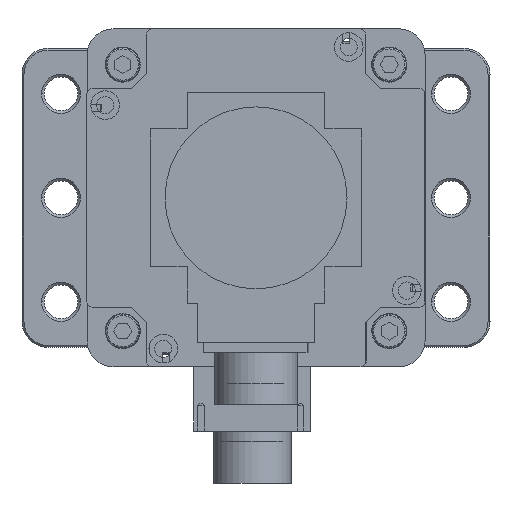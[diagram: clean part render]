
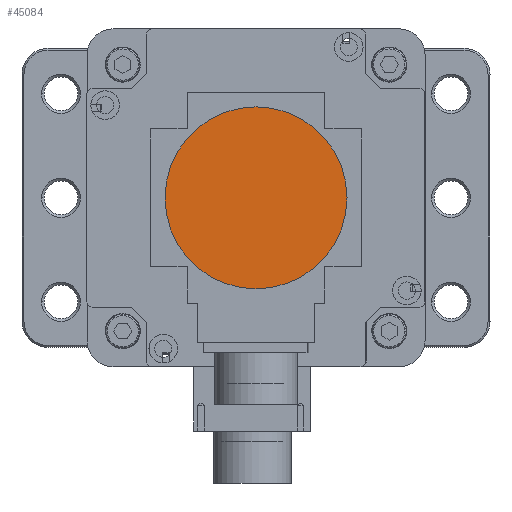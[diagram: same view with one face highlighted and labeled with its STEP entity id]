
A CAD part, front view. The second image highlights one B-rep face of the part: STEP entity #45084.
In plain terms, the highlighted planar face has unit normal (0, -1, 0) as drawn and (0, 0, 1) by its records, which use the part's own axes.
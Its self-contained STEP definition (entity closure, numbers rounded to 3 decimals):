
#44639=CARTESIAN_POINT('',(40.5,40.5,7.));
#44640=DIRECTION('',(0.,0.,1.));
#44641=DIRECTION('',(1.,0.,0.));
#44642=AXIS2_PLACEMENT_3D('',#44639,#44640,#44641);
#44644=CARTESIAN_POINT('',(40.5,40.5,7.));
#44645=DIRECTION('',(0.,0.,1.));
#44646=DIRECTION('',(-1.,0.,0.));
#44647=AXIS2_PLACEMENT_3D('',#44644,#44645,#44646);
#44690=CARTESIAN_POINT('',(5.5,40.5,7.));
#44692=VERTEX_POINT('',#44690);
#44745=CARTESIAN_POINT('',(75.5,40.5,7.));
#44746=VERTEX_POINT('',#44745);
#45075=CARTESIAN_POINT('',(40.5,40.5,7.));
#45076=DIRECTION('',(0.,0.,1.));
#45077=DIRECTION('',(1.,0.,0.));
#45078=AXIS2_PLACEMENT_3D('',#45075,#45076,#45077);
#45079=PLANE('',#45078);
#45080=ORIENTED_EDGE('',*,*,#45067,.F.);
#45081=ORIENTED_EDGE('',*,*,#45057,.F.);
#45082=EDGE_LOOP('',(#45080,#45081));
#45083=FACE_OUTER_BOUND('',#45082,.F.);
#45084=ADVANCED_FACE('',(#45083),#45079,.T.);
#44643=CIRCLE('',#44642,35.);
#44648=CIRCLE('',#44647,35.);
#45057=EDGE_CURVE('',#44692,#44746,#44648,.T.);
#45067=EDGE_CURVE('',#44746,#44692,#44643,.T.);
